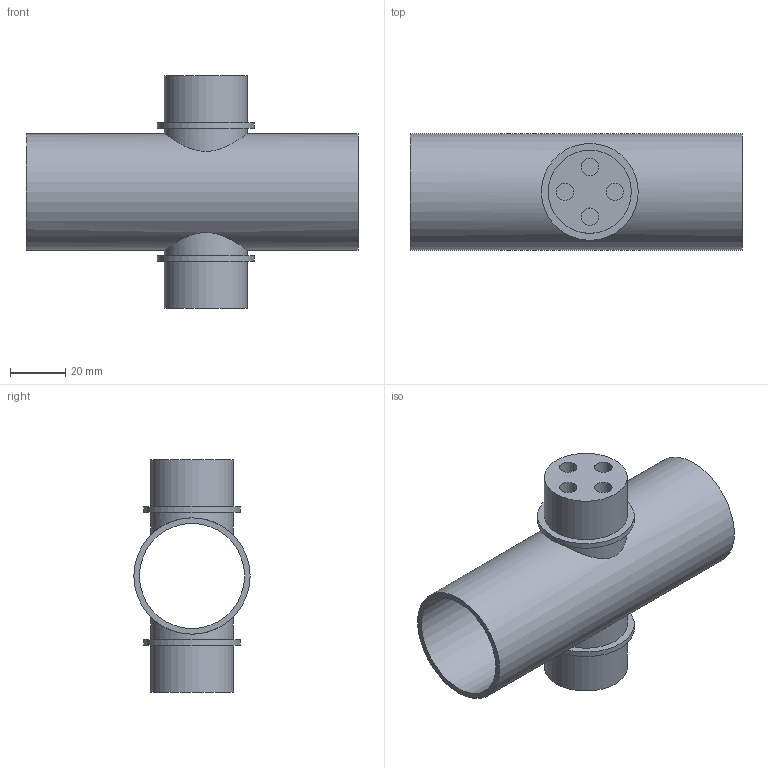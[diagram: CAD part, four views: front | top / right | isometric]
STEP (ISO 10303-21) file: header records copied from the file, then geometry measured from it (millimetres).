
FILE_DESCRIPTION(/* description */ (''),/* implementation_level */ '2;1');
FILE_NAME(/* name */ '5th axis spindle.step',/* time_stamp */ '2026-06-03T23:49:57+01:00',/* author */ (''),/* organization */ (''),/* preprocessor_version */ 'ST-DEVELOPER v20.1',/* originating_system */ 'Autodesk Translation Framework v15.8.0.0',/* authorisation */ '');
FILE_SCHEMA (('AUTOMOTIVE_DESIGN { 1 0 10303 214 3 1 1 }'));
Length unit declared in the file: millimetre
Products named in the file (1): 5th axis spindle
Bounding box: 120 x 42 x 84 mm (x, y, z)
Volume: 59167 mm3; surface area: 38532.8 mm2
Topology: 1 solids, 1 shells, 32 faces, 50 edges, 34 vertices
Faces by surface type: cylinder 16, plane 16
Full cylindrical faces by diameter (mm): 6.3 x8, 30 x4, 35 x2, 38 x1, 42 x1
Entity records: 869 total; most frequent: CARTESIAN_POINT 217, DIRECTION 142, ORIENTED_EDGE 100, AXIS2_PLACEMENT_3D 63, EDGE_CURVE 50, EDGE_LOOP 48, VERTEX_POINT 34, FACE_OUTER_BOUND 32
